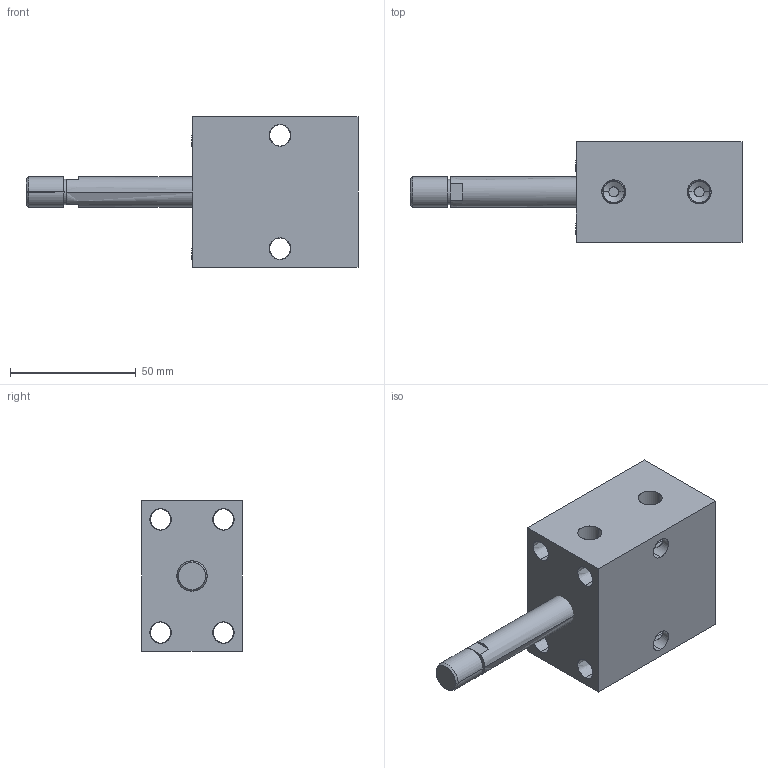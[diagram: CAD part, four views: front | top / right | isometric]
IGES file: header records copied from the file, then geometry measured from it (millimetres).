
Start section: SolidWorks IGES file using analytic representation for surfaces
Global section: file name: C:\Documents and Settings\rajib\Desktop\Rajib\BLOCK CYLINDER HYDRAULIC\0101-0106\0105.IGS; native system: SolidWorks 2007; preprocessor: SolidWorks 2007; author: rajib; date: 110121.093113; units: millimetre
Bounding box: 132 x 40 x 60 mm (x, y, z)
Surface area: 29270.6 mm2 (no closed solid volume)
Topology: 0 solids, 0 shells, 74 faces, 1690 edges, 1690 vertices
Faces by surface type: revolution 54, bspline 20
